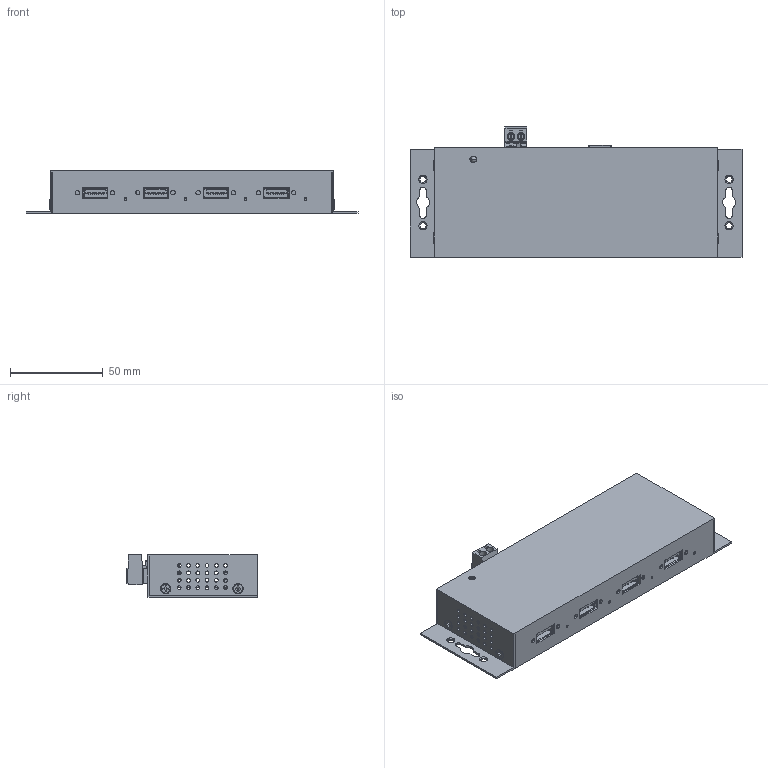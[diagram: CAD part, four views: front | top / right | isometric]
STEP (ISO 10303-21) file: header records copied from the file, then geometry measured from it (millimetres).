
FILE_DESCRIPTION(('FreeCAD Model'),'2;1');
FILE_NAME( 'X:/Technische Zeichnungen/EX-1184HMVS-2/EX-1184HMVS-2_3D.step', '2022-03-29T14:49:48',('Author'),(''), 'Open CASCADE STEP processor 7.3','FreeCAD','Unknown');
FILE_SCHEMA(('AUTOMOTIVE_DESIGN { 1 0 10303 214 1 1 1 1 }'));
Products named in the file (1): EX-1184HMVS_3D
Bounding box: 179.2 x 70.4 x 23.2 mm (x, y, z)
Volume: 49791 mm3; surface area: 88746.3 mm2
Topology: 2 solids, 8 shells, 2633 faces, 7753 edges, 5159 vertices
Faces by surface type: plane 1899, cylinder 530, cone 108, torus 76, sphere 14, revolution 6
Full cylindrical faces by diameter (mm): 1.4 x4, 1.5 x3, 1.567 x4, 1.8 x1, 2 x53, 2.4 x12, 2.459 x4, 2.5 x6, 3 x7, 3.12 x2, 3.2 x6, 3.4 x10, 3.6 x1, 4 x7, 5.3 x4, 5.5 x4, 6.4 x1, 8 x1
Entity records: 263993 total; most frequent: CARTESIAN_POINT 98266, DIRECTION 25374, LINE 15931, VECTOR 15931, ORIENTED_EDGE 15478, PCURVE 15478, DEFINITIONAL_REPRESENTATION 15478, EDGE_CURVE 7739
